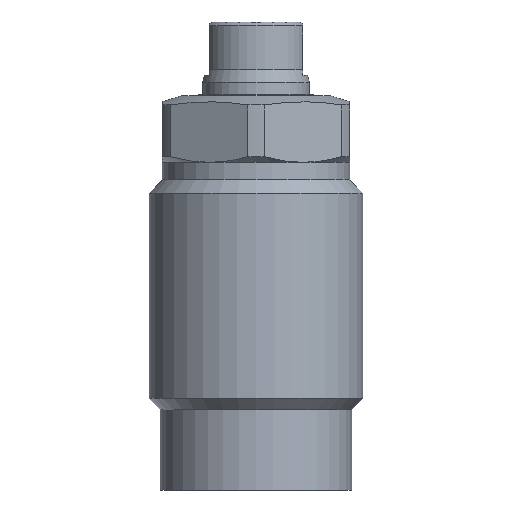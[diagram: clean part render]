
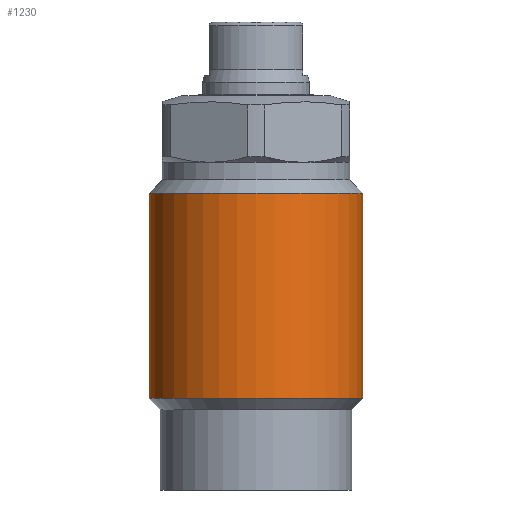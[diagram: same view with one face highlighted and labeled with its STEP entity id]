
A CAD part, front view. The second image highlights one B-rep face of the part: STEP entity #1230.
In plain terms, the highlighted cylindrical face has radius 8 mm (diameter 16 mm), a partial arc.
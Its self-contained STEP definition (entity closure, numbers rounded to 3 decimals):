
#1167=CARTESIAN_POINT('',(-8.,0.0,-22.65));
#1168=VERTEX_POINT('',#1167);
#1176=CARTESIAN_POINT('',(8.,0.0,-22.65));
#1177=VERTEX_POINT('',#1176);
#1184=CARTESIAN_POINT('',(0.0,0.0,-22.65));
#1185=DIRECTION('',(0.0,0.0,1.0));
#1186=DIRECTION('',(1.0,0.0,0.0));
#1187=AXIS2_PLACEMENT_3D('',#1184,#1185,#1186);
#1188=CIRCLE('',#1187,8.);
#1189=EDGE_CURVE('no 2011',#1168,#1177,#1188,.T.);
#1199=CARTESIAN_POINT('',(-8.,0.0,-7.3));
#1200=VERTEX_POINT('',#1199);
#1201=CARTESIAN_POINT('',(-8.,0.0,-22.65));
#1202=DIRECTION('',(0.,-0.0,1.0));
#1203=VECTOR('',#1202,1.0);
#1204=LINE('',#1201,#1203);
#1205=EDGE_CURVE('no 2021',#1168,#1200,#1204,.T.);
#1206=ORIENTED_EDGE('',*,*,#1205,.F.);
#1207=ORIENTED_EDGE('',*,*,#1189,.T.);
#1208=CARTESIAN_POINT('',(8.,0.0,-7.3));
#1209=VERTEX_POINT('',#1208);
#1210=CARTESIAN_POINT('',(8.,0.0,-22.65));
#1211=DIRECTION('',(0.,0.0,1.0));
#1212=VECTOR('',#1211,1.0);
#1213=LINE('',#1210,#1212);
#1214=EDGE_CURVE('no 2029',#1177,#1209,#1213,.T.);
#1215=ORIENTED_EDGE('',*,*,#1214,.T.);
#1216=CARTESIAN_POINT('',(0.0,0.0,-7.3));
#1217=DIRECTION('',(0.0,0.0,1.0));
#1218=DIRECTION('',(1.0,0.0,0.0));
#1219=AXIS2_PLACEMENT_3D('',#1216,#1217,#1218);
#1220=CIRCLE('',#1219,8.);
#1221=EDGE_CURVE('no 2033',#1200,#1209,#1220,.T.);
#1222=ORIENTED_EDGE('',*,*,#1221,.F.);
#1223=EDGE_LOOP('',(#1206,#1207,#1215,#1222));
#1224=FACE_OUTER_BOUND('',#1223,.T.);
#1225=CARTESIAN_POINT('',(0.0,0.0,8.838));
#1226=DIRECTION('',(0.0,0.0,1.0));
#1227=DIRECTION('',(0.0,1.0,0.0));
#1228=AXIS2_PLACEMENT_3D('',#1225,#1226,#1227);
#1229=CYLINDRICAL_SURFACE('',#1228,8.);
#1230=ADVANCED_FACE('no 2014',(#1224),#1229,.T.);
